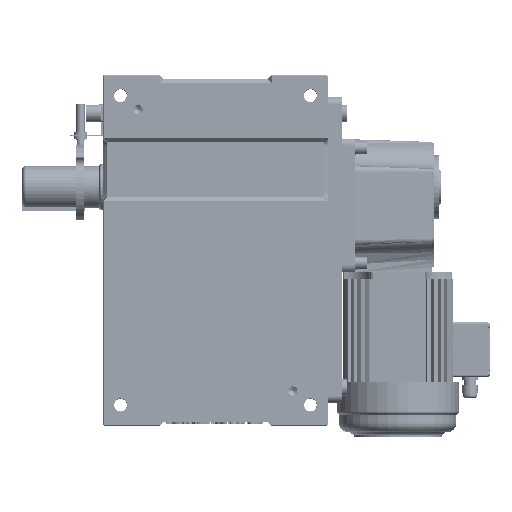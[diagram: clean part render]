
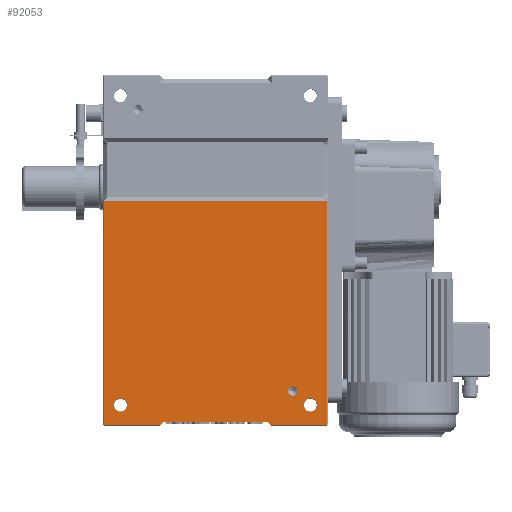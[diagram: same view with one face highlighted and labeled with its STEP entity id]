
A CAD part, front view. The second image highlights one B-rep face of the part: STEP entity #92053.
In plain terms, the highlighted planar face has unit normal (0, -1, 0).
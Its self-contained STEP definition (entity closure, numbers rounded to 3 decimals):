
#91 = DIRECTION ( 'NONE',  ( 0., 0., -1. ) ) ;
#897 = VERTEX_POINT ( 'NONE', #25257 ) ;
#1794 = VERTEX_POINT ( 'NONE', #125971 ) ;
#2305 = LINE ( 'NONE', #114562, #32318 ) ;
#3298 = DIRECTION ( 'NONE',  ( 0., -1., 0. ) ) ;
#4096 = LINE ( 'NONE', #20653, #132031 ) ;
#4246 = ORIENTED_EDGE ( 'NONE', *, *, #133468, .F. ) ;
#5157 = VERTEX_POINT ( 'NONE', #10038 ) ;
#5968 = DIRECTION ( 'NONE',  ( 1., 0., 0. ) ) ;
#6885 = AXIS2_PLACEMENT_3D ( 'NONE', #53749, #143104, #66574 ) ;
#8362 = EDGE_LOOP ( 'NONE', ( #16636, #61746, #17655, #99009, #101324, #30516, #4246, #76090 ) ) ;
#10038 = CARTESIAN_POINT ( 'NONE',  ( 158., -175., -248. ) ) ;
#12729 = DIRECTION ( 'NONE',  ( 0., 0., 1. ) ) ;
#14042 = ORIENTED_EDGE ( 'NONE', *, *, #119834, .F. ) ;
#14546 = ORIENTED_EDGE ( 'NONE', *, *, #62146, .F. ) ;
#14909 = EDGE_CURVE ( 'NONE', #5157, #23995, #21703, .T. ) ;
#15137 = AXIS2_PLACEMENT_3D ( 'NONE', #159037, #82429, #5968 ) ;
#16636 = ORIENTED_EDGE ( 'NONE', *, *, #126793, .F. ) ;
#17436 = VERTEX_POINT ( 'NONE', #121561 ) ;
#17655 = ORIENTED_EDGE ( 'NONE', *, *, #50699, .F. ) ;
#18013 = EDGE_LOOP ( 'NONE', ( #154987, #14042 ) ) ;
#18725 = AXIS2_PLACEMENT_3D ( 'NONE', #73415, #162811, #86275 ) ;
#20211 = EDGE_CURVE ( 'NONE', #89496, #28980, #114154, .T. ) ;
#20653 = CARTESIAN_POINT ( 'NONE',  ( 0., -175., -248. ) ) ;
#20955 = DIRECTION ( 'NONE',  ( 0., -1., 0. ) ) ;
#21703 = LINE ( 'NONE', #151589, #85626 ) ;
#22089 = FACE_BOUND ( 'NONE', #18013, .T. ) ;
#22775 = EDGE_LOOP ( 'NONE', ( #14546, #83974 ) ) ;
#23995 = VERTEX_POINT ( 'NONE', #56321 ) ;
#24323 = VECTOR ( 'NONE', #25950, 1000. ) ;
#24605 = CIRCLE ( 'NONE', #6885, 6.5 ) ;
#25257 = CARTESIAN_POINT ( 'NONE',  ( -74., -175., -244. ) ) ;
#25548 = EDGE_CURVE ( 'NONE', #28980, #89496, #24605, .T. ) ;
#25950 = DIRECTION ( 'NONE',  ( -1., 0., 0. ) ) ;
#28607 = DIRECTION ( 'NONE',  ( -0.707, 0., 0.707 ) ) ;
#28980 = VERTEX_POINT ( 'NONE', #102955 ) ;
#30516 = ORIENTED_EDGE ( 'NONE', *, *, #36216, .F. ) ;
#31567 = EDGE_CURVE ( 'NONE', #71709, #17436, #95764, .T. ) ;
#32318 = VECTOR ( 'NONE', #127510, 1000. ) ;
#33746 = AXIS2_PLACEMENT_3D ( 'NONE', #97410, #20955, #110235 ) ;
#35876 = VECTOR ( 'NONE', #28607, 1000. ) ;
#36216 = EDGE_CURVE ( 'NONE', #54523, #5157, #143183, .T. ) ;
#38536 = EDGE_CURVE ( 'NONE', #897, #157506, #2305, .T. ) ;
#39336 = VERTEX_POINT ( 'NONE', #152229 ) ;
#43130 = VERTEX_POINT ( 'NONE', #71429 ) ;
#45679 = LINE ( 'NONE', #113110, #109575 ) ;
#50699 = EDGE_CURVE ( 'NONE', #1794, #897, #58364, .T. ) ;
#52034 = FACE_BOUND ( 'NONE', #88990, .T. ) ;
#53749 = CARTESIAN_POINT ( 'NONE',  ( 110., -175., -200. ) ) ;
#54523 = VERTEX_POINT ( 'NONE', #69421 ) ;
#56137 = FACE_OUTER_BOUND ( 'NONE', #8362, .T. ) ;
#56321 = CARTESIAN_POINT ( 'NONE',  ( 78., -175., -248. ) ) ;
#58364 = LINE ( 'NONE', #153307, #24323 ) ;
#61726 = CIRCLE ( 'NONE', #18725, 9.5 ) ;
#61746 = ORIENTED_EDGE ( 'NONE', *, *, #38536, .F. ) ;
#62146 = EDGE_CURVE ( 'NONE', #121881, #67709, #61726, .T. ) ;
#65475 = CARTESIAN_POINT ( 'NONE',  ( 144.5, -175., -220. ) ) ;
#66574 = DIRECTION ( 'NONE',  ( 0., 0., -1. ) ) ;
#67653 = CARTESIAN_POINT ( 'NONE',  ( 158., -175., 0. ) ) ;
#67709 = VERTEX_POINT ( 'NONE', #115975 ) ;
#69421 = CARTESIAN_POINT ( 'NONE',  ( 158., -175., 70. ) ) ;
#71429 = CARTESIAN_POINT ( 'NONE',  ( -158., -175., -248. ) ) ;
#71709 = VERTEX_POINT ( 'NONE', #137668 ) ;
#73139 = CARTESIAN_POINT ( 'NONE',  ( 110., -175., -206.5 ) ) ;
#73415 = CARTESIAN_POINT ( 'NONE',  ( 135., -175., -220. ) ) ;
#75324 = PLANE ( 'NONE',  #82370 ) ;
#75934 = CIRCLE ( 'NONE', #33746, 9.5 ) ;
#76090 = ORIENTED_EDGE ( 'NONE', *, *, #164684, .F. ) ;
#76238 = ORIENTED_EDGE ( 'NONE', *, *, #20211, .F. ) ;
#76607 = DIRECTION ( 'NONE',  ( 0., -1., 0. ) ) ;
#78662 = DIRECTION ( 'NONE',  ( 0., 0., 1. ) ) ;
#79742 = CARTESIAN_POINT ( 'NONE',  ( 110., -175., -200. ) ) ;
#82370 = AXIS2_PLACEMENT_3D ( 'NONE', #165773, #89298, #12729 ) ;
#82429 = DIRECTION ( 'NONE',  ( 0., -1., 0. ) ) ;
#83974 = ORIENTED_EDGE ( 'NONE', *, *, #108669, .F. ) ;
#85626 = VECTOR ( 'NONE', #114623, 1000. ) ;
#86028 = FACE_BOUND ( 'NONE', #22775, .T. ) ;
#86275 = DIRECTION ( 'NONE',  ( 1., 0., 0. ) ) ;
#88990 = EDGE_LOOP ( 'NONE', ( #76238, #94718 ) ) ;
#89298 = DIRECTION ( 'NONE',  ( 0., 1., 0. ) ) ;
#89496 = VERTEX_POINT ( 'NONE', #73139 ) ;
#91556 = CARTESIAN_POINT ( 'NONE',  ( -158., -175., 0. ) ) ;
#92053 = ADVANCED_FACE ( 'NONE', ( #52034, #22089, #86028, #56137 ), #75324, .F. ) ;
#92645 = DIRECTION ( 'NONE',  ( 0., 0., -1. ) ) ;
#93355 = DIRECTION ( 'NONE',  ( 0., 0., -1. ) ) ;
#94718 = ORIENTED_EDGE ( 'NONE', *, *, #25548, .F. ) ;
#95764 = CIRCLE ( 'NONE', #107273, 9.5 ) ;
#95973 = LINE ( 'NONE', #91556, #134043 ) ;
#97138 = DIRECTION ( 'NONE',  ( -1., 0., 0. ) ) ;
#97158 = VECTOR ( 'NONE', #93355, 1000. ) ;
#97410 = CARTESIAN_POINT ( 'NONE',  ( -135., -175., -220. ) ) ;
#97881 = EDGE_CURVE ( 'NONE', #23995, #1794, #99796, .T. ) ;
#99009 = ORIENTED_EDGE ( 'NONE', *, *, #97881, .F. ) ;
#99796 = LINE ( 'NONE', #155927, #35876 ) ;
#101324 = ORIENTED_EDGE ( 'NONE', *, *, #14909, .F. ) ;
#102955 = CARTESIAN_POINT ( 'NONE',  ( 110., -175., -193.5 ) ) ;
#107273 = AXIS2_PLACEMENT_3D ( 'NONE', #153156, #76607, #91 ) ;
#108669 = EDGE_CURVE ( 'NONE', #67709, #121881, #155744, .T. ) ;
#109575 = VECTOR ( 'NONE', #125526, 1000. ) ;
#110235 = DIRECTION ( 'NONE',  ( 0., 0., -1. ) ) ;
#113110 = CARTESIAN_POINT ( 'NONE',  ( 0., -175., 70. ) ) ;
#114154 = CIRCLE ( 'NONE', #128237, 6.5 ) ;
#114562 = CARTESIAN_POINT ( 'NONE',  ( -74., -175., -244. ) ) ;
#114623 = DIRECTION ( 'NONE',  ( -1., 0., 0. ) ) ;
#115975 = CARTESIAN_POINT ( 'NONE',  ( 125.5, -175., -220. ) ) ;
#119834 = EDGE_CURVE ( 'NONE', #17436, #71709, #75934, .T. ) ;
#121561 = CARTESIAN_POINT ( 'NONE',  ( -144.5, -175., -220. ) ) ;
#121881 = VERTEX_POINT ( 'NONE', #65475 ) ;
#125526 = DIRECTION ( 'NONE',  ( 1., 0., 0. ) ) ;
#125971 = CARTESIAN_POINT ( 'NONE',  ( 74., -175., -244. ) ) ;
#126793 = EDGE_CURVE ( 'NONE', #157506, #43130, #4096, .T. ) ;
#127510 = DIRECTION ( 'NONE',  ( -0.707, 0., -0.707 ) ) ;
#128237 = AXIS2_PLACEMENT_3D ( 'NONE', #79742, #3298, #92645 ) ;
#132031 = VECTOR ( 'NONE', #97138, 1000. ) ;
#133468 = EDGE_CURVE ( 'NONE', #39336, #54523, #45679, .T. ) ;
#134043 = VECTOR ( 'NONE', #78662, 1000. ) ;
#137668 = CARTESIAN_POINT ( 'NONE',  ( -125.5, -175., -220. ) ) ;
#138719 = CARTESIAN_POINT ( 'NONE',  ( -78., -175., -248. ) ) ;
#143104 = DIRECTION ( 'NONE',  ( 0., -1., 0. ) ) ;
#143183 = LINE ( 'NONE', #67653, #97158 ) ;
#151589 = CARTESIAN_POINT ( 'NONE',  ( 0., -175., -248. ) ) ;
#152229 = CARTESIAN_POINT ( 'NONE',  ( -158., -175., 70. ) ) ;
#153156 = CARTESIAN_POINT ( 'NONE',  ( -135., -175., -220. ) ) ;
#153307 = CARTESIAN_POINT ( 'NONE',  ( 0., -175., -244. ) ) ;
#154987 = ORIENTED_EDGE ( 'NONE', *, *, #31567, .F. ) ;
#155744 = CIRCLE ( 'NONE', #15137, 9.5 ) ;
#155927 = CARTESIAN_POINT ( 'NONE',  ( 78., -175., -248. ) ) ;
#157506 = VERTEX_POINT ( 'NONE', #138719 ) ;
#159037 = CARTESIAN_POINT ( 'NONE',  ( 135., -175., -220. ) ) ;
#162811 = DIRECTION ( 'NONE',  ( 0., -1., 0. ) ) ;
#164684 = EDGE_CURVE ( 'NONE', #43130, #39336, #95973, .T. ) ;
#165773 = CARTESIAN_POINT ( 'NONE',  ( 0., -175., 0. ) ) ;
